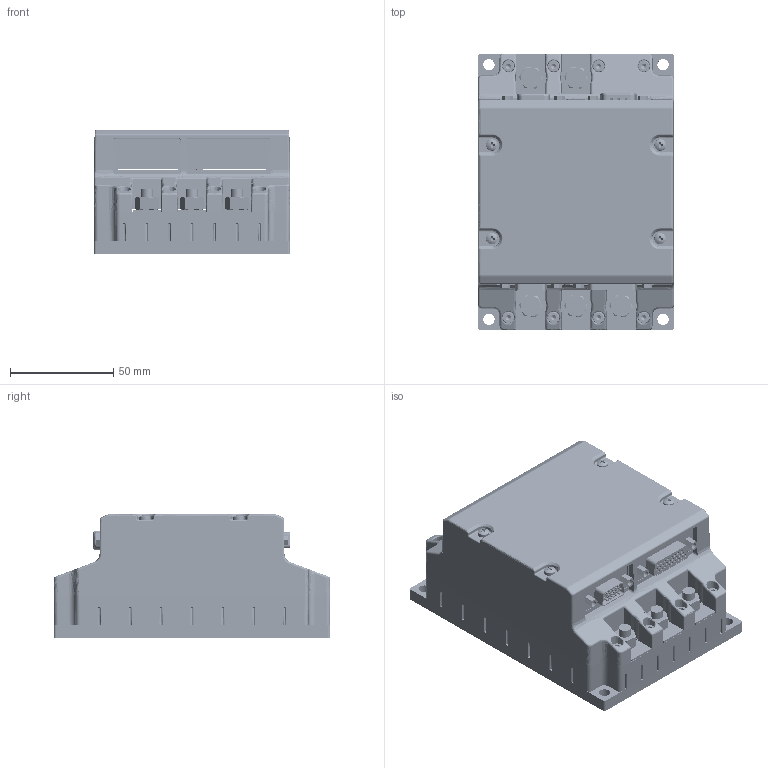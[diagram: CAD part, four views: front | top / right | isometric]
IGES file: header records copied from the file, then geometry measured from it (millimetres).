
Start section: SolidWorks IGES file using analytic representation for surfaces
Global section: file name: F:\ELMO\PRODUCTS\ExtrIQ\Eagle\DRAWING\solid-parts\EAGLE.IGS; native system: SolidWorks 2007; preprocessor: SolidWorks 2007; author: shlomo; date: 071111.165718; units: millimetre
Bounding box: 95.25 x 134.25 x 60 mm (x, y, z)
Surface area: 150447.1 mm2 (no closed solid volume)
Topology: 0 solids, 0 shells, 4969 faces, 37195 edges, 37080 vertices
Faces by surface type: bspline 2933, revolution 2036
